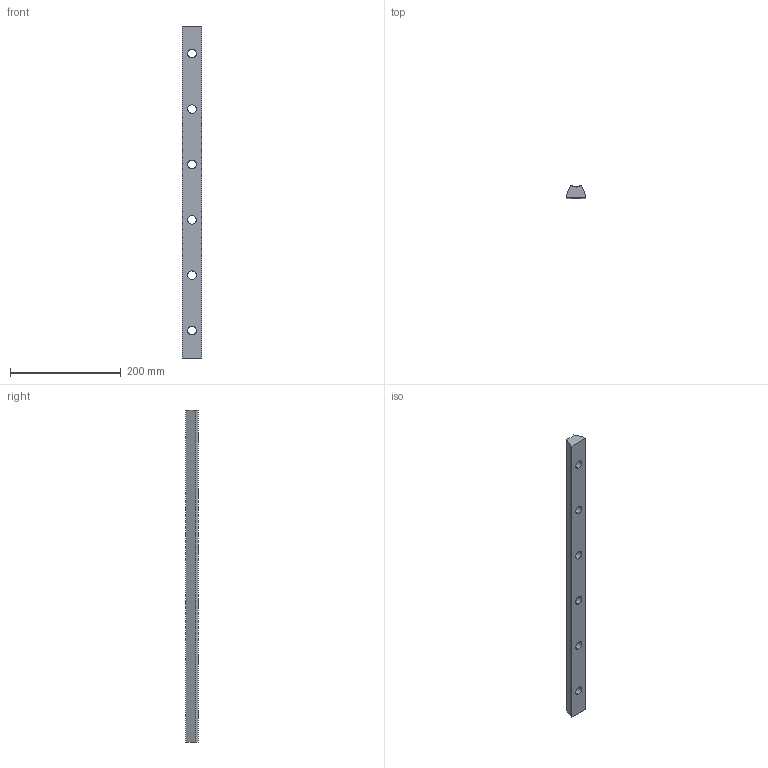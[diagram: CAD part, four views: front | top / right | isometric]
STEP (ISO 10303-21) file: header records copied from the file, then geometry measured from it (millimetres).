
FILE_DESCRIPTION (( 'STEP AP203' ), '1' );
FILE_NAME ('KWU16-50.step', '2020-04-22T09:15:33', ( '' ), ( '' ), 'SwSTEP 2.0', 'SolidWorks 2019', '' );
FILE_SCHEMA (( 'CONFIG_CONTROL_DESIGN' ));
Length unit declared in the file: millimetre
Products named in the file (2): KWU16-50
Bounding box: 35 x 22.7 x 599.5 mm (x, y, z)
Volume: 349119.9 mm3; surface area: 67185.5 mm2
Topology: 1 solids, 1 shells, 21 faces, 63 edges, 38 vertices
Faces by surface type: cylinder 12, plane 9
Entity records: 872 total; most frequent: CARTESIAN_POINT 160, ORIENTED_EDGE 126, DIRECTION 109, EDGE_CURVE 63, VECTOR 39, LINE 39, VERTEX_POINT 38, AXIS2_PLACEMENT_3D 35
